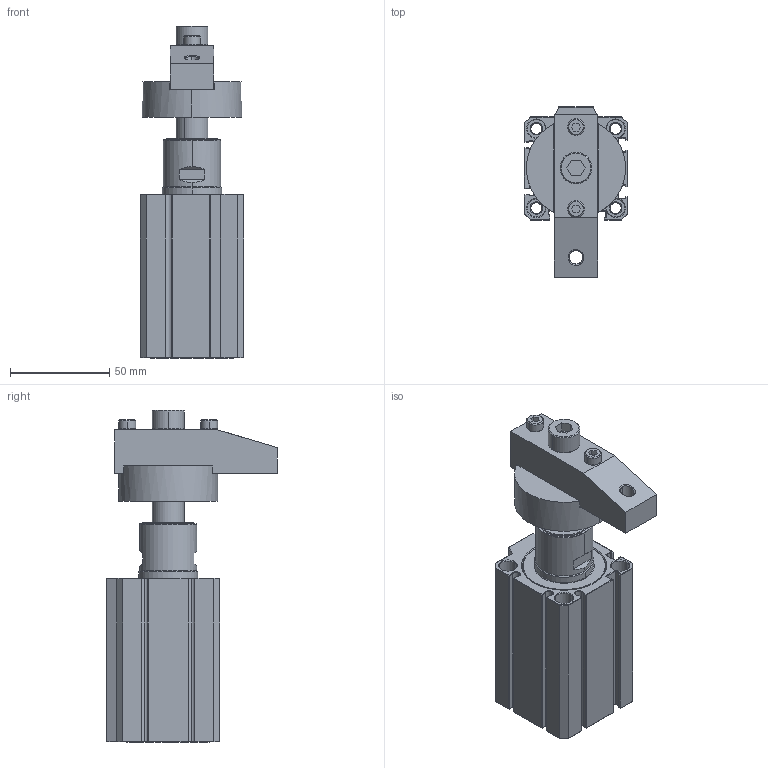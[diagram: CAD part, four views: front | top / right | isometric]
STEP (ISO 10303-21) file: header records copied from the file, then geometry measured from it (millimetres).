
FILE_DESCRIPTION (( 'STEP AP214' ), '1' );
FILE_NAME ('P22-40.STEP', '2023-10-25T14:23:51', ( '' ), ( '' ), 'SwSTEP 2.0', 'SolidWorks 2015', '' );
FILE_SCHEMA (( 'AUTOMOTIVE_DESIGN' ));
Length unit declared in the file: millimetre
Products named in the file (10): P22-40-03_Alt Kapak; P22-40-02_Ust Govde; P22-40-01_Govde; P22-40-05_Piston mili; P22-40; P22-40-13_M5x25_Imbus; P22-40-08_Piston Borusu Ust Kapak; P22-40-11_Kaynak Koruma Pabucu; P22-40-10_M10x30_Imbus; P22-40-12_Baski Kolu
Assembly tree (10 placements, depth 2):
  P22-40
    P22-40-01_Govde
    P22-40-02_Ust Govde
    P22-40-03_Alt Kapak
    P22-40-05_Piston mili
    P22-40-08_Piston Borusu Ust Kapak
    P22-40-11_Kaynak Koruma Pabucu
    P22-40-12_Baski Kolu
    P22-40-10_M10x30_Imbus
    P22-40-13_M5x25_Imbus  x2
Bounding box: 52 x 86 x 167.4 mm (x, y, z)
Volume: 194170 mm3; surface area: 85493.4 mm2
Topology: 10 solids, 10 shells, 542 faces, 1288 edges, 786 vertices
Faces by surface type: plane 238, cone 156, cylinder 140, bspline 8
Entity records: 22344 total; most frequent: CARTESIAN_POINT 4020, DIRECTION 2616, ORIENTED_EDGE 2468, EDGE_CURVE 1234, AXIS2_PLACEMENT_3D 947, VERTEX_POINT 760, LINE 722, VECTOR 722
